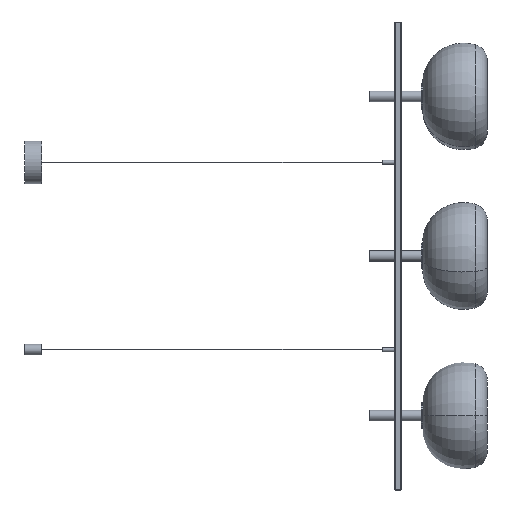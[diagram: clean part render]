
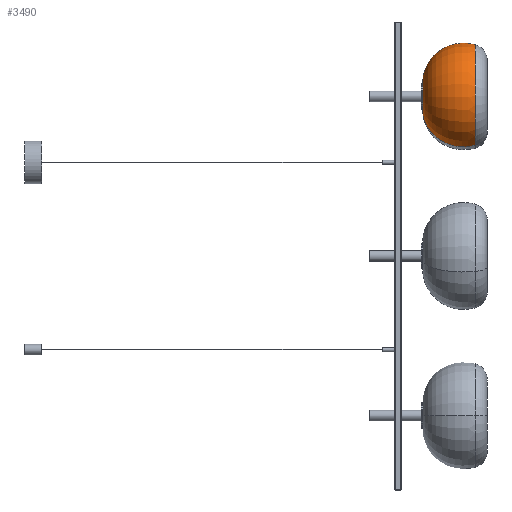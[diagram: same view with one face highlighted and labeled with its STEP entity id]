
A CAD part, left-side view. The second image highlights one B-rep face of the part: STEP entity #3490.
In plain terms, the highlighted toroidal (fillet/blend) face has major radius 30 mm and minor radius 95.943 mm.
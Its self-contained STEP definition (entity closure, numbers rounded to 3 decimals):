
#326 = DIRECTION ( 'NONE',  ( 0.348, 0., 0.938 ) ) ;
#392 = DIRECTION ( 'NONE',  ( 0.348, 0., 0.938 ) ) ;
#422 = DIRECTION ( 'NONE',  ( -0.348, 0., -0.938 ) ) ;
#513 = CIRCLE ( 'NONE', #5693, 95.943 ) ;
#599 = CARTESIAN_POINT ( 'NONE',  ( 19.488, -158.389, 1539.2 ) ) ;
#860 = DIRECTION ( 'NONE',  ( 0.348, 0., 0.938 ) ) ;
#1329 = CARTESIAN_POINT ( 'NONE',  ( -33.316, -34.579, 1396.873 ) ) ;
#1342 = EDGE_CURVE ( 'NONE', #4792, #5502, #513, .T. ) ;
#1380 = EDGE_LOOP ( 'NONE', ( #6648, #4547, #5565, #3822 ) ) ;
#1389 = CARTESIAN_POINT ( 'NONE',  ( -22.881, -34.579, 1425. ) ) ;
#1627 = VERTEX_POINT ( 'NONE', #599 ) ;
#2091 = TOROIDAL_SURFACE ( 'NONE', #3438, 30., 95.943 ) ;
#2535 = CARTESIAN_POINT ( 'NONE',  ( -65.251, -158.389, 1310.8 ) ) ;
#2575 = DIRECTION ( 'NONE',  ( 0., -1., 0. ) ) ;
#2639 = FACE_OUTER_BOUND ( 'NONE', #1380, .T. ) ;
#2722 = CIRCLE ( 'NONE', #6227, 95.943 ) ;
#3138 = DIRECTION ( 'NONE',  ( 0., -1., 0. ) ) ;
#3183 = DIRECTION ( 'NONE',  ( -0.938, 0., 0.348 ) ) ;
#3238 = CARTESIAN_POINT ( 'NONE',  ( -33.316, -130.522, 1396.873 ) ) ;
#3438 = AXIS2_PLACEMENT_3D ( 'NONE', #6437, #5313, #860 ) ;
#3490 = ADVANCED_FACE ( 'NONE', ( #2639 ), #2091, .T. ) ;
#3543 = EDGE_CURVE ( 'NONE', #5393, #1627, #2722, .T. ) ;
#3822 = ORIENTED_EDGE ( 'NONE', *, *, #3543, .F. ) ;
#3975 = CIRCLE ( 'NONE', #7196, 121.807 ) ;
#4547 = ORIENTED_EDGE ( 'NONE', *, *, #1342, .T. ) ;
#4792 = VERTEX_POINT ( 'NONE', #1329 ) ;
#5004 = CARTESIAN_POINT ( 'NONE',  ( -12.446, -130.522, 1453.127 ) ) ;
#5313 = DIRECTION ( 'NONE',  ( 0., -1., 0. ) ) ;
#5393 = VERTEX_POINT ( 'NONE', #6995 ) ;
#5502 = VERTEX_POINT ( 'NONE', #2535 ) ;
#5565 = ORIENTED_EDGE ( 'NONE', *, *, #6640, .F. ) ;
#5693 = AXIS2_PLACEMENT_3D ( 'NONE', #3238, #3183, #326 ) ;
#5911 = EDGE_CURVE ( 'NONE', #5393, #4792, #6733, .T. ) ;
#6227 = AXIS2_PLACEMENT_3D ( 'NONE', #5004, #7251, #422 ) ;
#6437 = CARTESIAN_POINT ( 'NONE',  ( -22.881, -130.522, 1425. ) ) ;
#6470 = DIRECTION ( 'NONE',  ( 0.348, 0., 0.938 ) ) ;
#6512 = CARTESIAN_POINT ( 'NONE',  ( -22.881, -158.389, 1425. ) ) ;
#6640 = EDGE_CURVE ( 'NONE', #1627, #5502, #3975, .T. ) ;
#6648 = ORIENTED_EDGE ( 'NONE', *, *, #5911, .T. ) ;
#6733 = CIRCLE ( 'NONE', #7000, 30. ) ;
#6995 = CARTESIAN_POINT ( 'NONE',  ( -12.446, -34.579, 1453.127 ) ) ;
#7000 = AXIS2_PLACEMENT_3D ( 'NONE', #1389, #2575, #6470 ) ;
#7196 = AXIS2_PLACEMENT_3D ( 'NONE', #6512, #3138, #392 ) ;
#7251 = DIRECTION ( 'NONE',  ( 0.938, 0., -0.348 ) ) ;
